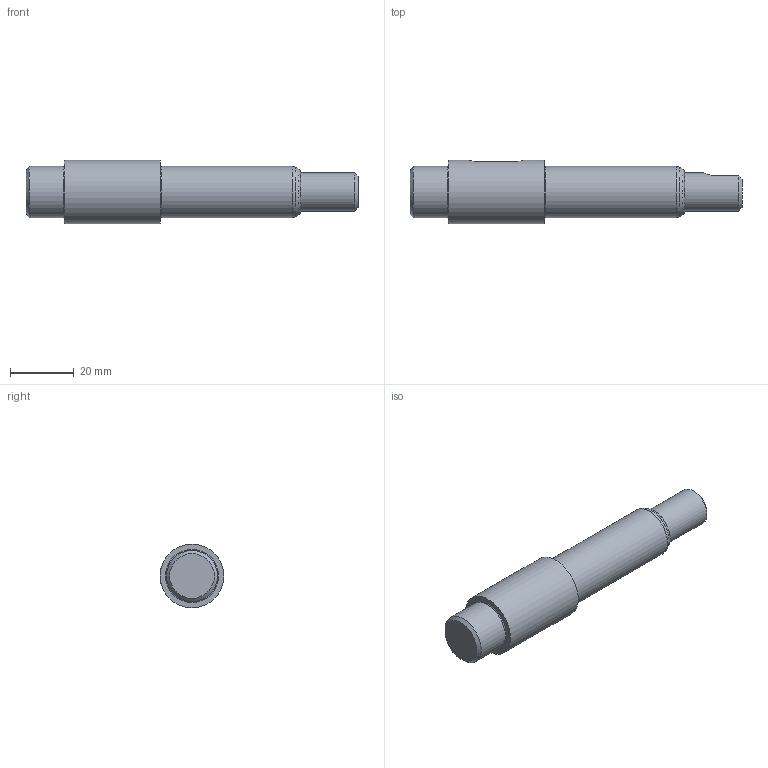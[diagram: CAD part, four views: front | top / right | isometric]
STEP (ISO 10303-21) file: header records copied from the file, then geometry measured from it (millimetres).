
FILE_DESCRIPTION(/* description */ (''),/* implementation_level */ '2;1');
FILE_NAME(/* name */ 'C:\Users\8호실-1\Desktop\390409E1017\390409E107-메인축.STP',/* time_stamp */ '2019-04-13T12:06:00+09:00',/* author */ ('8호실-1'),/* organization */ (''),/* preprocessor_version */ 'ST-DEVELOPER v15.6',/* originating_system */ 'Autodesk Inventor 2015',/* authorisation */ '');
FILE_SCHEMA (('AUTOMOTIVE_DESIGN { 1 0 10303 214 3 1 1 }'));
Length unit declared in the file: millimetre
Products named in the file (1): 390409E107-메인축
Bounding box: 104 x 20 x 20 mm (x, y, z)
Volume: 22134.1 mm3; surface area: 6056.4 mm2
Topology: 1 solids, 1 shells, 25 faces, 54 edges, 34 vertices
Faces by surface type: plane 11, cylinder 7, torus 4, cone 3
Full cylindrical faces by diameter (mm): 12 x1, 16 x2, 20 x1
Entity records: 687 total; most frequent: CARTESIAN_POINT 161, DIRECTION 105, ORIENTED_EDGE 86, AXIS2_PLACEMENT_3D 44, EDGE_CURVE 43, EDGE_LOOP 39, VERTEX_POINT 34, FACE_OUTER_BOUND 25
